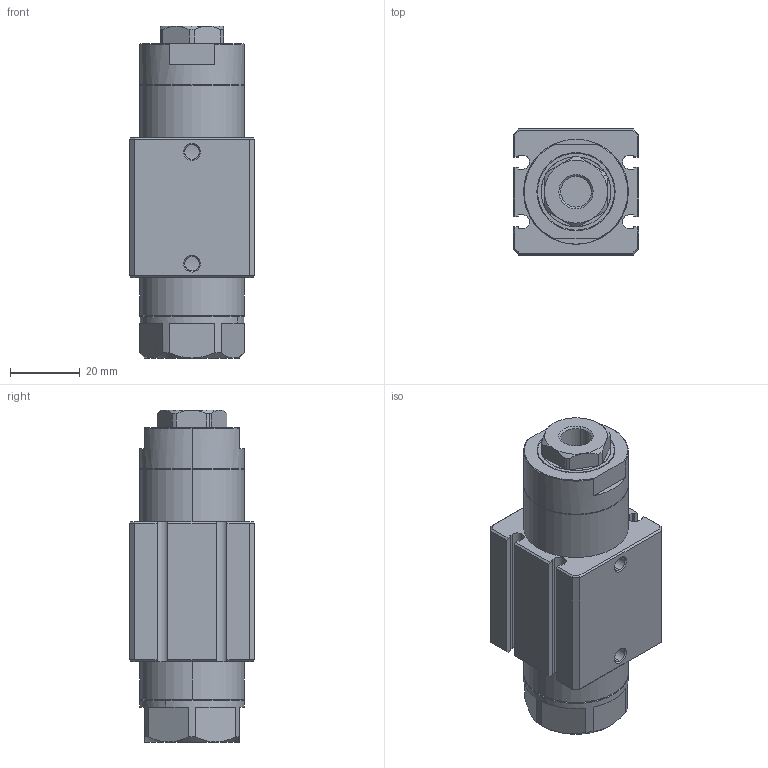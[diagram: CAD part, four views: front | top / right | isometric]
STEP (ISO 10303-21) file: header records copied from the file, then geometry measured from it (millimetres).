
FILE_DESCRIPTION (( 'STEP AP203' ), '1' );
FILE_NAME ('VFGD30-20.stp.STEP', '2024-08-24T02:31:44', ( '' ), ( '' ), 'SwSTEP 2.0', 'SolidWorks 2022', '' );
FILE_SCHEMA (( 'CONFIG_CONTROL_DESIGN' ));
Length unit declared in the file: millimetre
Products named in the file (1): VFGD30-20.stp
Bounding box: 36 x 36 x 95.03 mm (x, y, z)
Volume: 82158 mm3; surface area: 17256.4 mm2
Topology: 1 solids, 6 shells, 264 faces, 621 edges, 375 vertices
Faces by surface type: plane 110, cylinder 69, cone 64, bspline 21
Entity records: 17344 total; most frequent: CARTESIAN_POINT 11364, ORIENTED_EDGE 1218, DIRECTION 1207, EDGE_CURVE 609, AXIS2_PLACEMENT_3D 433, VERTEX_POINT 375, LINE 341, VECTOR 341
